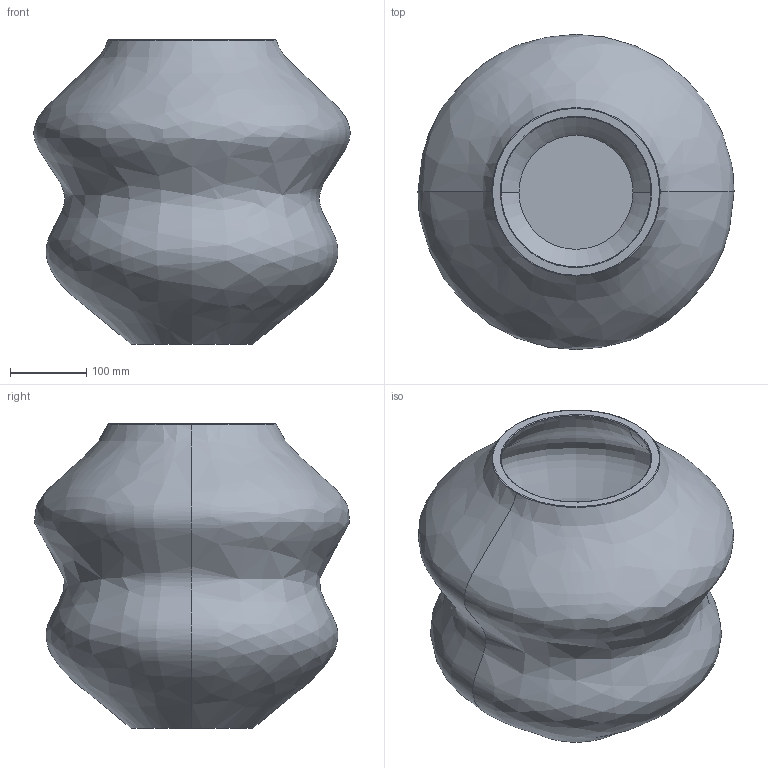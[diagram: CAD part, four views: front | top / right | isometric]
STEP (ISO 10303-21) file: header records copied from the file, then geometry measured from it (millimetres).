
FILE_DESCRIPTION(/* description */ (''),/* implementation_level */ '2;1');
FILE_NAME(/* name */ '40',/* time_stamp */ '2026-07-06T12:08:51+02:00',/* author */ (''),/* organization */ (''),/* preprocessor_version */ 'ST-DEVELOPER v19.2',/* originating_system */ 'Rhino 8.32',/* authorisation */ '');
FILE_SCHEMA (('CONFIG_CONTROL_DESIGN'));
Length unit declared in the file: millimetre
Products named in the file (1): Document
Bounding box: 415.31 x 414.16 x 400 mm (x, y, z)
Volume: 6071775.3 mm3; surface area: 1018923.7 mm2
Topology: 1 solids, 1 shells, 11 faces, 20 edges, 12 vertices
Faces by surface type: bspline 8, plane 3
Entity records: 5529 total; most frequent: CARTESIAN_POINT 5260, ORIENTED_EDGE 40, DIRECTION 31, EDGE_CURVE 20, AXIS2_PLACEMENT_3D 17, EDGE_LOOP 12, TRIMMED_CURVE 12, CIRCLE 12
